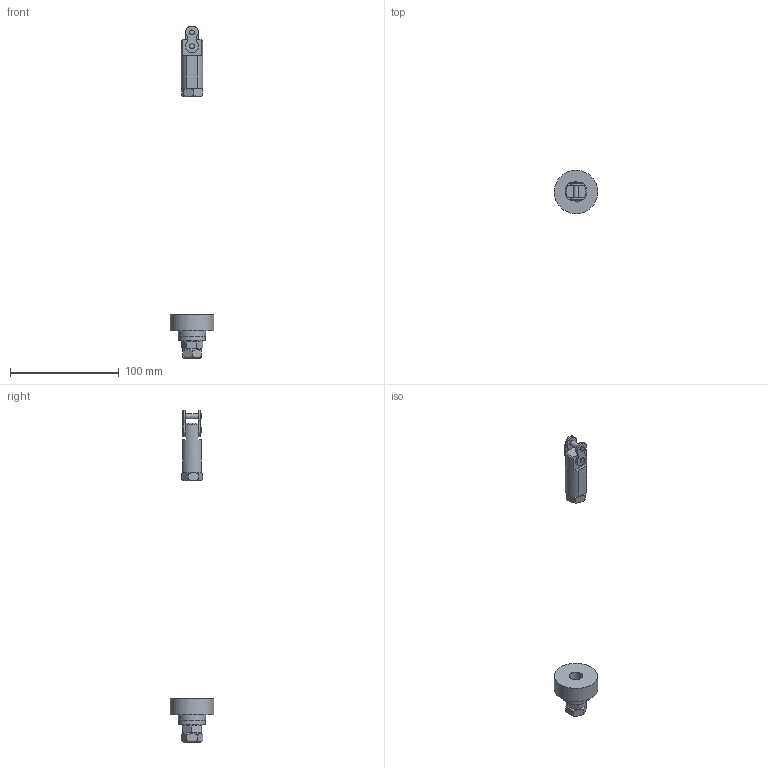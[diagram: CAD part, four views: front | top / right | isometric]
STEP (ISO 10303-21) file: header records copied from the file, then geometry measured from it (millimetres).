
FILE_DESCRIPTION((''),'2;1');
FILE_NAME('C:\Andys Backup Data\WEBSITE\DREAMWEAVER\MiniTec\Products\Lifting_Sliding_Doors\CAD\Step\21.0925 CHAIN CLAMPING DEVICE S.stp','2013-11-27T16:16:25',('Admin'),(''),'Autodesk Inventor 2012','Autodesk Inventor 2012','');
FILE_SCHEMA(('AUTOMOTIVE_DESIGN { 1 0 10303 214 1 1 1 1 }'));
Length unit declared in the file: millimetre
Products named in the file (10): 21.0925 CHAIN CLAMPING DEVICE S; 29.0308 CONNECTING LINK 08B; 29.0308 CONNECTING LINK MALE; 29.0308 CONNECTING LINK FEMALE; 29.0308 CONNECTING LINK CLIP; 21.1527 M10 HEX NUT; 21.0925 RUBBER WASHER LARGE; 21.0925 RUBBER WASHER SMALL; WASHER M10 HEAVY
Assembly tree (11 placements, depth 3):
  21.0925 CHAIN CLAMPING DEVICE S
    21.0925 CHAIN CLAMPING DEVICE S
    29.0308 CONNECTING LINK 08B
      29.0308 CONNECTING LINK MALE
      29.0308 CONNECTING LINK FEMALE
      29.0308 CONNECTING LINK CLIP
    21.1527 M10 HEX NUT  x3
    21.0925 RUBBER WASHER LARGE
    21.0925 RUBBER WASHER SMALL
    WASHER M10 HEAVY
Bounding box: 39.95 x 39.95 x 305.41 mm (x, y, z)
Volume: 36927.1 mm3; surface area: 16676.5 mm2
Topology: 10 solids, 10 shells, 134 faces, 295 edges, 186 vertices
Faces by surface type: plane 57, cone 42, cylinder 35
Full cylindrical faces by diameter (mm): 4.45 x7, 8.376 x4, 8.5 x1, 10.5 x1, 12 x1, 24.5 x1, 25 x1, 40 x1
Entity records: 3046 total; most frequent: DIRECTION 528, CARTESIAN_POINT 485, ORIENTED_EDGE 364, AXIS2_PLACEMENT_3D 233, EDGE_CURVE 182, EDGE_LOOP 174, VERTEX_POINT 142, FACE_OUTER_BOUND 108
